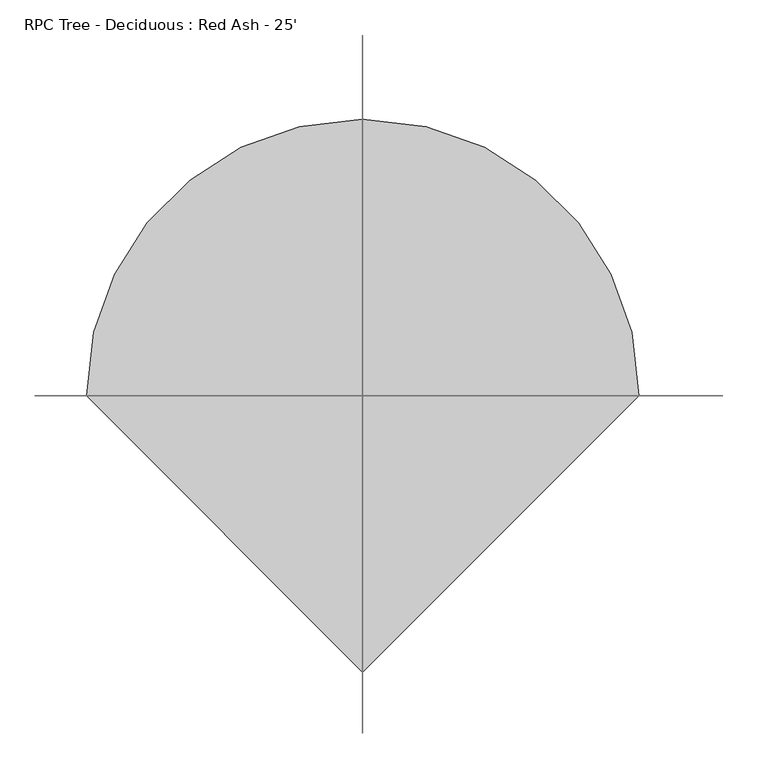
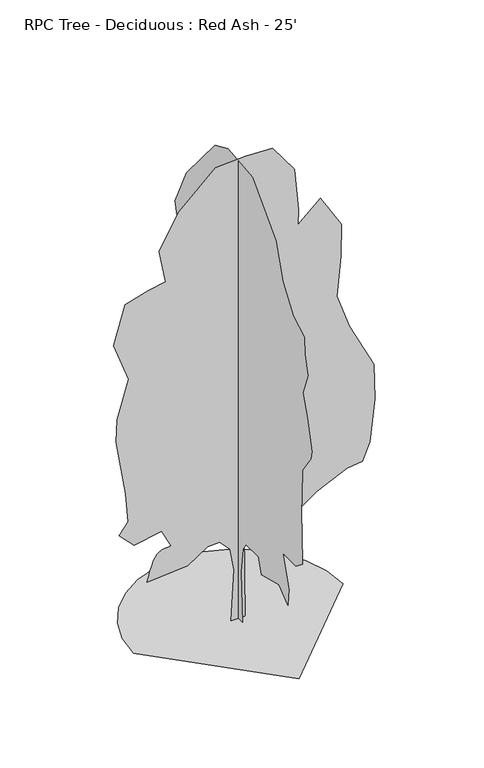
"""IFC4 building model written with IfcOpenShell, lengths in millimetres: geographic element geometry, RPC Tree - Deciduous : Red Ash - 25'."""

from ifc_helpers import new_model, si_unit, origin, place, context, project, spatial, triangles, source, transform, mapped, element, save


def rpc_tree_deciduous_red_ash_25_de8497d4(model_context):
    return source(origin(), model_context, "Body", "Tessellation", [
        triangles([(-1644.9525009, 0.0, 6.19e-05), (-1601.4651844, 376.9143482, 6.19e-05), (-1477.6144592, 723.0498339, 6.19e-05), (-1283.3164352, 1028.4894024, 6.19e-05), (-1028.4894751, 1283.3165806, 6.19e-05), (-723.0496885, 1477.6140232, 6.19e-05), (-376.9141665, 1601.4651844, 6.19e-05), (7.19e-05, 1644.9525009, 6.19e-05), (376.9143846, 1601.4651844, 6.19e-05), (723.0499065, 1477.6143139, 6.19e-05), (1028.4894751, 1283.3164352, 6.19e-05), (1283.3168713, 1028.4894751, 6.19e-05), (1477.6141685, 723.0496159, 6.19e-05), (1601.4651844, 376.9140939, 6.19e-05), (1644.9525009, -0.0001438, 6.19e-05), (-0.0002157, -1644.9525009, 6.19e-05), (-1.07e-05, 102.8462569, 0.0), (2.5e-05, 101.2467179, 1194.554048), (3.23e-05, 129.8819613, 1537.8029366), (7e-07, 438.8253948, 1558.1655018), (-5.78e-05, 976.3912743, 1478.3068588), (-0.0001405, 1903.692667, 1948.6771305), (-0.0001413, 2011.2060173, 2298.095192), (-0.0001361, 2145.5975235, 2943.1744217), (-0.0001119, 2105.2803623, 3615.1319527), (-5.81e-05, 1740.3819958, 4141.0172951), (-5.5e-06, 1527.3986298, 5160.6350006), (-3.5e-06, 1715.5451397, 5886.3488434), (4.79e-05, 1406.4449661, 6531.4286545), (0.0001569, 626.9743755, 7458.7301926), (0.0001985, 273.2007115, 7618.1942963), (0.0002662, -394.4016166, 7552.8046829), (0.0003121, -1026.0418774, 6880.8468613), (0.0003149, -1214.190204, 6316.4022446), (0.0003323, -1496.411277, 5913.2274353), (0.0003598, -1805.5131947, 5751.9582092), (0.0003531, -1818.9521999, 5483.1746155), (0.0003523, -1899.587249, 5174.0742966), (0.0003275, -1765.1957428, 4811.2170845), (0.0003297, -1886.1480984, 4461.7991684), (0.0003279, -2007.1004539, 3977.9897461), (0.0003211, -1980.222298, 3843.5979492), (0.0002877, -1751.7567375, 3521.0580437), (0.0002729, -1737.3115437, 3077.5662186), (0.0002632, -1724.8782909, 2795.3439102), (0.0002542, -1738.3174416, 2445.9262848), (0.0002412, -1751.7568829, 1962.1167171), (0.0002172, -1563.6084835, 1814.2857697), (0.0001807, -1214.1907127, 1814.2857697), (0.0001827, -1375.4605202, 1317.0371967), (0.0001715, -1348.4951603, 1034.8845062), (0.0001516, -1103.0310734, 1227.8363914), (9.86e-05, -629.4626684, 1106.7075932), (9.8e-05, -551.7118183, 1357.0609165), (6.29e-05, -215.9127657, 1354.0025276), (5.03e-05, -130.8012366, 1228.3346169), (3.27e-05, -79.5493323, 818.2831198), (1.17e-05, -112.1660096, 1.28e-05), (-110.870867, -4.8e-06, 4.46e-05), (-66.7114758, 9.64e-05, 833.5016676), (-129.3072962, 0.000136, 1187.9435503), (-290.7878647, 0.00015, 1365.31768), (-483.6364677, 0.0001408, 1358.6964272), (-796.2678211, 0.000103, 1155.7673166), (-1427.9080456, 6.9e-05, 1102.0108595), (-1419.1706429, 7.35e-05, 1136.7646975), (-1409.8454853, 7.82e-05, 1172.6938271), (-1399.3449635, 8.32e-05, 1210.9736853), (-1387.0813225, 8.87e-05, 1252.7803631), (-1372.4668076, 9.49e-05, 1299.2876987), (-1354.9136639, 0.0001019, 1351.6733093), (-1333.8341366, 0.0001099, 1411.1111057), (-1307.2693336, 0.0001176, 1466.2392815), (-1274.3570984, 0.0001239, 1506.556588), (-1236.1555058, 0.0001289, 1534.5316246), (-1193.7220493, 0.0001329, 1552.6338627), (-1148.1152401, 0.0001362, 1563.3300121), (-1100.3923536, 0.000139, 1569.0895443), (-1051.6116829, 0.0001415, 1572.3809132), (-1199.4421944, 0.0001703, 1868.0423721), (-1629.4953049, 0.0001418, 1787.4073231), (-1871.3997253, 0.0001601, 2029.3124702), (-1723.5690685, 0.0001874, 2204.0214283), (-1763.886375, 0.0002433, 2687.8309959), (-1911.7170319, 0.0003442, 3588.2539421), (-1898.4807758, 0.0003892, 3961.1654823), (-1719.9175472, 0.0004688, 4563.3255295), (-1952.0346291, 0.0005347, 5200.9523071), (-1777.3253803, 0.000616, 5819.1535263), (-1414.4687496, 0.0006447, 5926.6667313), (-1138.413216, 0.0006626, 5975.3625961), (-1239.7599369, 0.0007228, 6517.9893585), (-930.6591093, 0.000802, 7068.9952606), (-352.7753057, 0.0008898, 7593.1219894), (117.5946844, 0.0009135, 7620.0), (534.2087442, 0.0009301, 7606.5601227), (883.626733, 0.0008893, 7136.1905777), (947.8720848, 0.00081, 6447.5180786), (938.6469212, 0.0007795, 6194.9695404), (1286.8011063, 0.0008333, 6517.9893585), (1622.7800171, 0.0007823, 5966.9840378), (1609.3410118, 0.0007196, 5446.5094116), (1549.4574577, 0.00064, 4800.6520317), (1743.7323727, 0.0005809, 4233.3331718), (2131.7640656, 0.0005067, 3469.1978371), (2144.1354034, 0.0004386, 2892.8094727), (2066.2719875, 0.0003531, 2204.021283), (1945.319632, 0.0003141, 1921.7989746), (1703.4147755, 0.0003004, 1894.9206734), (1233.0446491, 0.0002542, 1679.8941181), (816.4305439, 0.0002007, 1384.2328045), (257.4765441, 0.0002049, 1624.5688614), (93.0508701, 0.0001766, 1447.6347485), (104.1552431, 4.6e-06, 3.52e-05)], [[16, 15, 1], [15, 14, 1], [1, 14, 2], [14, 13, 2], [2, 13, 3], [3, 13, 4], [13, 12, 4], [12, 11, 4], [4, 11, 5], [5, 11, 6], [6, 11, 7], [7, 11, 8], [8, 11, 9], [9, 11, 10], [51, 50, 52], [58, 57, 17], [17, 57, 18], [57, 56, 18], [18, 56, 19], [56, 55, 19], [50, 49, 52], [53, 52, 54], [52, 49, 54], [36, 35, 37], [47, 46, 48], [48, 46, 49], [22, 21, 23], [21, 20, 23], [23, 20, 24], [24, 20, 25], [25, 20, 26], [20, 19, 26], [26, 19, 27], [46, 45, 49], [32, 31, 33], [31, 30, 33], [30, 29, 33], [33, 29, 34], [29, 28, 34], [28, 27, 34], [27, 19, 34], [34, 19, 35], [35, 19, 37], [37, 19, 38], [38, 19, 39], [39, 19, 40], [40, 19, 41], [41, 19, 42], [42, 19, 43], [43, 19, 44], [44, 19, 45], [45, 19, 49], [49, 19, 54], [19, 55, 54], [65, 64, 66], [66, 64, 67], [67, 64, 68], [100, 99, 101], [68, 64, 69], [69, 64, 70], [70, 64, 71], [59, 114, 60], [114, 113, 60], [60, 113, 61], [61, 113, 62], [71, 64, 72], [72, 64, 73], [73, 64, 74], [74, 64, 75], [75, 64, 76], [76, 64, 77], [77, 64, 78], [78, 64, 79], [64, 63, 79], [82, 81, 83], [81, 80, 83], [101, 99, 102], [108, 107, 109], [111, 110, 112], [89, 88, 90], [88, 87, 90], [90, 87, 91], [83, 80, 84], [96, 95, 97], [97, 95, 98], [95, 94, 98], [94, 93, 98], [93, 92, 98], [92, 91, 98], [98, 91, 99], [91, 87, 99], [99, 87, 102], [102, 87, 103], [103, 87, 104], [87, 86, 104], [86, 85, 104], [85, 84, 104], [84, 80, 104], [104, 80, 105], [105, 80, 106], [106, 80, 107], [107, 80, 109], [109, 80, 110], [110, 80, 112], [80, 79, 112], [79, 63, 112], [63, 62, 112], [62, 113, 112]], closed=False),
    ])


if __name__ == "__main__":
    model = new_model("IFC4")
    model_context = context("Model", 3, world=origin())
    ifc_project = project(units=[si_unit("LENGTHUNIT", "METRE", prefix="MILLI")], contexts=[model_context])
    site = spatial("IfcSite", under=ifc_project)
    building = spatial("IfcBuilding", under=site)
    placement = place(None, origin())
    rpc_tree_deciduous_red_ash_25_shape = rpc_tree_deciduous_red_ash_25_de8497d4(model_context)
    element("IfcGeographicElement", 1, ObjectType="RPC Tree - Deciduous : Red Ash - 25'", at=placement, inside=building, context=model_context, shape_type="MappedRepresentation", body=[
        mapped(rpc_tree_deciduous_red_ash_25_shape, transform((0.0, 0.0, 0.0), x_axis=(1.0, 0.0, 0.0), y_axis=(0.0, 1.0, 0.0), z_axis=(0.0, 0.0, 1.0))),
    ])
    save(model, "model.ifc")
